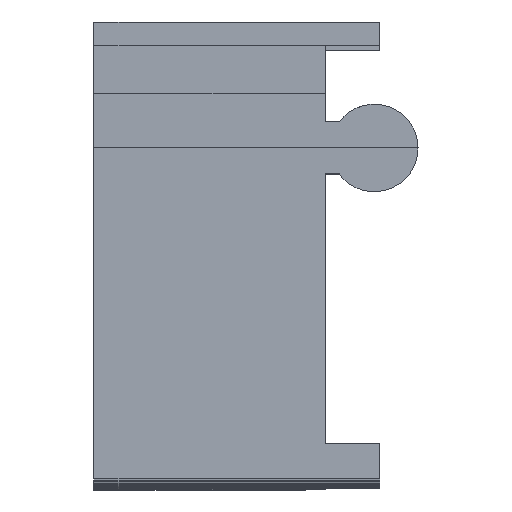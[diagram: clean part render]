
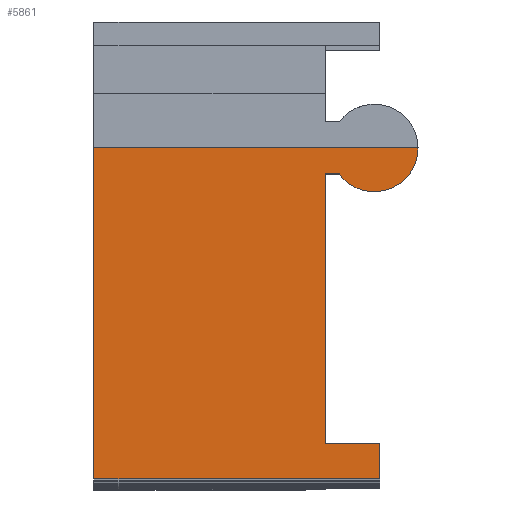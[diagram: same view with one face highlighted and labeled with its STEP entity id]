
A CAD part, top view. The second image highlights one B-rep face of the part: STEP entity #5861.
In plain terms, the highlighted planar face has unit normal (0, 0, 1).
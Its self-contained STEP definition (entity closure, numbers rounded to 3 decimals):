
#32 = PLANE('',#33);
#33 = AXIS2_PLACEMENT_3D('',#34,#35,#36);
#34 = CARTESIAN_POINT('',(-15.,135.,-0.1));
#35 = DIRECTION('',(1.,0.,-0.));
#36 = DIRECTION('',(0.,0.,1.));
#133 = VERTEX_POINT('',#134);
#134 = CARTESIAN_POINT('',(-15.,170.,23.5));
#147 = PLANE('',#148);
#148 = AXIS2_PLACEMENT_3D('',#149,#150,#151);
#149 = CARTESIAN_POINT('',(168.,170.,22.4));
#150 = DIRECTION('',(0.,-1.,0.));
#151 = DIRECTION('',(-1.,0.,0.));
#158 = EDGE_CURVE('',#133,#159,#161,.T.);
#159 = VERTEX_POINT('',#160);
#160 = CARTESIAN_POINT('',(-15.,145.8,23.5));
#161 = SURFACE_CURVE('',#162,(#166,#172),.PCURVE_S1.);
#162 = LINE('',#163,#164);
#163 = CARTESIAN_POINT('',(-15.,-5.4,23.5));
#164 = VECTOR('',#165,1.);
#165 = DIRECTION('',(0.,-1.,0.));
#166 = PCURVE('',#32,#167);
#167 = DEFINITIONAL_REPRESENTATION('',(#168),#171);
#168 = B_SPLINE_CURVE_WITH_KNOTS('',1,(#169,#170),.UNSPECIFIED.,.F.,.F.,
  (2,2),(-175.4,-140.4),.PIECEWISE_BEZIER_KNOTS.);
#169 = CARTESIAN_POINT('',(23.6,-35.));
#170 = CARTESIAN_POINT('',(23.6,0.));
#171 = ( GEOMETRIC_REPRESENTATION_CONTEXT(2) 
PARAMETRIC_REPRESENTATION_CONTEXT() REPRESENTATION_CONTEXT('2D SPACE',''
  ) );
#172 = PCURVE('',#173,#178);
#173 = PLANE('',#174);
#174 = AXIS2_PLACEMENT_3D('',#175,#176,#177);
#175 = CARTESIAN_POINT('',(126.7,-145.8,23.5));
#176 = DIRECTION('',(-0.,0.,1.));
#177 = DIRECTION('',(0.,-1.,0.));
#178 = DEFINITIONAL_REPRESENTATION('',(#179),#182);
#179 = B_SPLINE_CURVE_WITH_KNOTS('',1,(#180,#181),.UNSPECIFIED.,.F.,.F.,
  (2,2),(-175.4,-140.4),.PIECEWISE_BEZIER_KNOTS.);
#180 = CARTESIAN_POINT('',(-315.8,-141.7));
#181 = CARTESIAN_POINT('',(-280.8,-141.7));
#182 = ( GEOMETRIC_REPRESENTATION_CONTEXT(2) 
PARAMETRIC_REPRESENTATION_CONTEXT() REPRESENTATION_CONTEXT('2D SPACE',''
  ) );
#199 = PLANE('',#200);
#200 = AXIS2_PLACEMENT_3D('',#201,#202,#203);
#201 = CARTESIAN_POINT('',(-160.,145.696,23.493));
#202 = DIRECTION('',(0.,-0.065,0.998));
#203 = DIRECTION('',(0.,0.998,0.065));
#2628 = PLANE('',#2629);
#2629 = AXIS2_PLACEMENT_3D('',#2630,#2631,#2632);
#2630 = CARTESIAN_POINT('',(1.9,168.1,38.));
#2631 = DIRECTION('',(0.,-1.,0.));
#2632 = DIRECTION('',(1.,0.,0.));
#4489 = PLANE('',#4490);
#4490 = AXIS2_PLACEMENT_3D('',#4491,#4492,#4493);
#4491 = CARTESIAN_POINT('',(5.9,148.4,38.));
#4492 = DIRECTION('',(0.,1.,-0.));
#4493 = DIRECTION('',(-1.,0.,0.));
#5464 = PLANE('',#5465);
#5465 = AXIS2_PLACEMENT_3D('',#5466,#5467,#5468);
#5466 = CARTESIAN_POINT('',(5.9,145.1,38.));
#5467 = DIRECTION('',(1.,0.,0.));
#5468 = DIRECTION('',(-0.,1.,0.));
#5817 = EDGE_CURVE('',#159,#5818,#5820,.T.);
#5818 = VERTEX_POINT('',#5819);
#5819 = CARTESIAN_POINT('',(5.9,145.8,23.5));
#5820 = SURFACE_CURVE('',#5821,(#5825,#5832),.PCURVE_S1.);
#5821 = LINE('',#5822,#5823);
#5822 = CARTESIAN_POINT('',(-160.,145.8,23.5));
#5823 = VECTOR('',#5824,1.);
#5824 = DIRECTION('',(1.,0.,0.));
#5825 = PCURVE('',#199,#5826);
#5826 = DEFINITIONAL_REPRESENTATION('',(#5827),#5831);
#5827 = LINE('',#5828,#5829);
#5828 = CARTESIAN_POINT('',(0.105,0.));
#5829 = VECTOR('',#5830,1.);
#5830 = DIRECTION('',(0.,-1.));
#5831 = ( GEOMETRIC_REPRESENTATION_CONTEXT(2) 
PARAMETRIC_REPRESENTATION_CONTEXT() REPRESENTATION_CONTEXT('2D SPACE',''
  ) );
#5832 = PCURVE('',#173,#5833);
#5833 = DEFINITIONAL_REPRESENTATION('',(#5834),#5838);
#5834 = LINE('',#5835,#5836);
#5835 = CARTESIAN_POINT('',(-291.6,-286.7));
#5836 = VECTOR('',#5837,1.);
#5837 = DIRECTION('',(0.,1.));
#5838 = ( GEOMETRIC_REPRESENTATION_CONTEXT(2) 
PARAMETRIC_REPRESENTATION_CONTEXT() REPRESENTATION_CONTEXT('2D SPACE',''
  ) );
#5861 = ADVANCED_FACE('',(#5862),#173,.T.);
#5862 = FACE_BOUND('',#5863,.T.);
#5863 = EDGE_LOOP('',(#5864,#5885,#5886,#5887,#5909,#5931,#5958,#5980));
#5864 = ORIENTED_EDGE('',*,*,#5865,.F.);
#5865 = EDGE_CURVE('',#133,#5866,#5868,.T.);
#5866 = VERTEX_POINT('',#5867);
#5867 = CARTESIAN_POINT('',(8.7,170.,23.5));
#5868 = SURFACE_CURVE('',#5869,(#5873,#5879),.PCURVE_S1.);
#5869 = LINE('',#5870,#5871);
#5870 = CARTESIAN_POINT('',(147.35,170.,23.5));
#5871 = VECTOR('',#5872,1.);
#5872 = DIRECTION('',(1.,0.,0.));
#5873 = PCURVE('',#173,#5874);
#5874 = DEFINITIONAL_REPRESENTATION('',(#5875),#5878);
#5875 = B_SPLINE_CURVE_WITH_KNOTS('',1,(#5876,#5877),.UNSPECIFIED.,.F.,
  .F.,(2,2),(-315.35,20.65),.PIECEWISE_BEZIER_KNOTS.);
#5876 = CARTESIAN_POINT('',(-315.8,-294.7));
#5877 = CARTESIAN_POINT('',(-315.8,41.3));
#5878 = ( GEOMETRIC_REPRESENTATION_CONTEXT(2) 
PARAMETRIC_REPRESENTATION_CONTEXT() REPRESENTATION_CONTEXT('2D SPACE',''
  ) );
#5879 = PCURVE('',#147,#5880);
#5880 = DEFINITIONAL_REPRESENTATION('',(#5881),#5884);
#5881 = B_SPLINE_CURVE_WITH_KNOTS('',1,(#5882,#5883),.UNSPECIFIED.,.F.,
  .F.,(2,2),(-315.35,20.65),.PIECEWISE_BEZIER_KNOTS.);
#5882 = CARTESIAN_POINT('',(336.,-1.1));
#5883 = CARTESIAN_POINT('',(0.,-1.1));
#5884 = ( GEOMETRIC_REPRESENTATION_CONTEXT(2) 
PARAMETRIC_REPRESENTATION_CONTEXT() REPRESENTATION_CONTEXT('2D SPACE',''
  ) );
#5885 = ORIENTED_EDGE('',*,*,#158,.T.);
#5886 = ORIENTED_EDGE('',*,*,#5817,.T.);
#5887 = ORIENTED_EDGE('',*,*,#5888,.T.);
#5888 = EDGE_CURVE('',#5818,#5889,#5891,.T.);
#5889 = VERTEX_POINT('',#5890);
#5890 = CARTESIAN_POINT('',(5.9,148.4,23.5));
#5891 = SURFACE_CURVE('',#5892,(#5896,#5902),.PCURVE_S1.);
#5892 = LINE('',#5893,#5894);
#5893 = CARTESIAN_POINT('',(5.9,-0.35,23.5));
#5894 = VECTOR('',#5895,1.);
#5895 = DIRECTION('',(0.,1.,-0.));
#5896 = PCURVE('',#173,#5897);
#5897 = DEFINITIONAL_REPRESENTATION('',(#5898),#5901);
#5898 = B_SPLINE_CURVE_WITH_KNOTS('',1,(#5899,#5900),.UNSPECIFIED.,.F.,
  .F.,(2,2),(145.45,148.75),.PIECEWISE_BEZIER_KNOTS.);
#5899 = CARTESIAN_POINT('',(-290.9,-120.8));
#5900 = CARTESIAN_POINT('',(-294.2,-120.8));
#5901 = ( GEOMETRIC_REPRESENTATION_CONTEXT(2) 
PARAMETRIC_REPRESENTATION_CONTEXT() REPRESENTATION_CONTEXT('2D SPACE',''
  ) );
#5902 = PCURVE('',#5464,#5903);
#5903 = DEFINITIONAL_REPRESENTATION('',(#5904),#5908);
#5904 = LINE('',#5905,#5906);
#5905 = CARTESIAN_POINT('',(-145.45,-14.5));
#5906 = VECTOR('',#5907,1.);
#5907 = DIRECTION('',(1.,0.));
#5908 = ( GEOMETRIC_REPRESENTATION_CONTEXT(2) 
PARAMETRIC_REPRESENTATION_CONTEXT() REPRESENTATION_CONTEXT('2D SPACE',''
  ) );
#5909 = ORIENTED_EDGE('',*,*,#5910,.T.);
#5910 = EDGE_CURVE('',#5889,#5911,#5913,.T.);
#5911 = VERTEX_POINT('',#5912);
#5912 = CARTESIAN_POINT('',(1.9,148.4,23.5));
#5913 = SURFACE_CURVE('',#5914,(#5918,#5924),.PCURVE_S1.);
#5914 = LINE('',#5915,#5916);
#5915 = CARTESIAN_POINT('',(66.3,148.4,23.5));
#5916 = VECTOR('',#5917,1.);
#5917 = DIRECTION('',(-1.,0.,-0.));
#5918 = PCURVE('',#173,#5919);
#5919 = DEFINITIONAL_REPRESENTATION('',(#5920),#5923);
#5920 = B_SPLINE_CURVE_WITH_KNOTS('',1,(#5921,#5922),.UNSPECIFIED.,.F.,
  .F.,(2,2),(60.4,64.4),.PIECEWISE_BEZIER_KNOTS.);
#5921 = CARTESIAN_POINT('',(-294.2,-120.8));
#5922 = CARTESIAN_POINT('',(-294.2,-124.8));
#5923 = ( GEOMETRIC_REPRESENTATION_CONTEXT(2) 
PARAMETRIC_REPRESENTATION_CONTEXT() REPRESENTATION_CONTEXT('2D SPACE',''
  ) );
#5924 = PCURVE('',#4489,#5925);
#5925 = DEFINITIONAL_REPRESENTATION('',(#5926),#5930);
#5926 = LINE('',#5927,#5928);
#5927 = CARTESIAN_POINT('',(-60.4,-14.5));
#5928 = VECTOR('',#5929,1.);
#5929 = DIRECTION('',(1.,0.));
#5930 = ( GEOMETRIC_REPRESENTATION_CONTEXT(2) 
PARAMETRIC_REPRESENTATION_CONTEXT() REPRESENTATION_CONTEXT('2D SPACE',''
  ) );
#5931 = ORIENTED_EDGE('',*,*,#5932,.T.);
#5932 = EDGE_CURVE('',#5911,#5933,#5935,.T.);
#5933 = VERTEX_POINT('',#5934);
#5934 = CARTESIAN_POINT('',(1.9,168.1,23.5));
#5935 = SURFACE_CURVE('',#5936,(#5940,#5946),.PCURVE_S1.);
#5936 = LINE('',#5937,#5938);
#5937 = CARTESIAN_POINT('',(1.9,1.3,23.5));
#5938 = VECTOR('',#5939,1.);
#5939 = DIRECTION('',(0.,1.,-0.));
#5940 = PCURVE('',#173,#5941);
#5941 = DEFINITIONAL_REPRESENTATION('',(#5942),#5945);
#5942 = B_SPLINE_CURVE_WITH_KNOTS('',1,(#5943,#5944),.UNSPECIFIED.,.F.,
  .F.,(2,2),(147.1,166.8),.PIECEWISE_BEZIER_KNOTS.);
#5943 = CARTESIAN_POINT('',(-294.2,-124.8));
#5944 = CARTESIAN_POINT('',(-313.9,-124.8));
#5945 = ( GEOMETRIC_REPRESENTATION_CONTEXT(2) 
PARAMETRIC_REPRESENTATION_CONTEXT() REPRESENTATION_CONTEXT('2D SPACE',''
  ) );
#5946 = PCURVE('',#5947,#5952);
#5947 = PLANE('',#5948);
#5948 = AXIS2_PLACEMENT_3D('',#5949,#5950,#5951);
#5949 = CARTESIAN_POINT('',(1.9,148.4,38.));
#5950 = DIRECTION('',(1.,0.,0.));
#5951 = DIRECTION('',(-0.,1.,0.));
#5952 = DEFINITIONAL_REPRESENTATION('',(#5953),#5957);
#5953 = LINE('',#5954,#5955);
#5954 = CARTESIAN_POINT('',(-147.1,-14.5));
#5955 = VECTOR('',#5956,1.);
#5956 = DIRECTION('',(1.,0.));
#5957 = ( GEOMETRIC_REPRESENTATION_CONTEXT(2) 
PARAMETRIC_REPRESENTATION_CONTEXT() REPRESENTATION_CONTEXT('2D SPACE',''
  ) );
#5958 = ORIENTED_EDGE('',*,*,#5959,.T.);
#5959 = EDGE_CURVE('',#5933,#5960,#5962,.T.);
#5960 = VERTEX_POINT('',#5961);
#5961 = CARTESIAN_POINT('',(2.925,168.1,23.5));
#5962 = SURFACE_CURVE('',#5963,(#5967,#5973),.PCURVE_S1.);
#5963 = LINE('',#5964,#5965);
#5964 = CARTESIAN_POINT('',(64.3,168.1,23.5));
#5965 = VECTOR('',#5966,1.);
#5966 = DIRECTION('',(1.,0.,0.));
#5967 = PCURVE('',#173,#5968);
#5968 = DEFINITIONAL_REPRESENTATION('',(#5969),#5972);
#5969 = B_SPLINE_CURVE_WITH_KNOTS('',1,(#5970,#5971),.UNSPECIFIED.,.F.,
  .F.,(2,2),(-62.4,-61.375),.PIECEWISE_BEZIER_KNOTS.);
#5970 = CARTESIAN_POINT('',(-313.9,-124.8));
#5971 = CARTESIAN_POINT('',(-313.9,-123.775));
#5972 = ( GEOMETRIC_REPRESENTATION_CONTEXT(2) 
PARAMETRIC_REPRESENTATION_CONTEXT() REPRESENTATION_CONTEXT('2D SPACE',''
  ) );
#5973 = PCURVE('',#2628,#5974);
#5974 = DEFINITIONAL_REPRESENTATION('',(#5975),#5979);
#5975 = LINE('',#5976,#5977);
#5976 = CARTESIAN_POINT('',(62.4,-14.5));
#5977 = VECTOR('',#5978,1.);
#5978 = DIRECTION('',(1.,0.));
#5979 = ( GEOMETRIC_REPRESENTATION_CONTEXT(2) 
PARAMETRIC_REPRESENTATION_CONTEXT() REPRESENTATION_CONTEXT('2D SPACE',''
  ) );
#5980 = ORIENTED_EDGE('',*,*,#5981,.T.);
#5981 = EDGE_CURVE('',#5960,#5866,#5982,.T.);
#5982 = SURFACE_CURVE('',#5983,(#5988,#5995),.PCURVE_S1.);
#5983 = CIRCLE('',#5984,3.2);
#5984 = AXIS2_PLACEMENT_3D('',#5985,#5986,#5987);
#5985 = CARTESIAN_POINT('',(5.5,170.,23.5));
#5986 = DIRECTION('',(0.,0.,1.));
#5987 = DIRECTION('',(1.,0.,-0.));
#5988 = PCURVE('',#173,#5989);
#5989 = DEFINITIONAL_REPRESENTATION('',(#5990),#5994);
#5990 = CIRCLE('',#5991,3.2);
#5991 = AXIS2_PLACEMENT_2D('',#5992,#5993);
#5992 = CARTESIAN_POINT('',(-315.8,-121.2));
#5993 = DIRECTION('',(0.,1.));
#5994 = ( GEOMETRIC_REPRESENTATION_CONTEXT(2) 
PARAMETRIC_REPRESENTATION_CONTEXT() REPRESENTATION_CONTEXT('2D SPACE',''
  ) );
#5995 = PCURVE('',#5996,#6001);
#5996 = CYLINDRICAL_SURFACE('',#5997,3.2);
#5997 = AXIS2_PLACEMENT_3D('',#5998,#5999,#6000);
#5998 = CARTESIAN_POINT('',(5.5,170.,23.45));
#5999 = DIRECTION('',(0.,0.,1.));
#6000 = DIRECTION('',(1.,0.,-0.));
#6001 = DEFINITIONAL_REPRESENTATION('',(#6002),#6006);
#6002 = LINE('',#6003,#6004);
#6003 = CARTESIAN_POINT('',(0.,0.05));
#6004 = VECTOR('',#6005,1.);
#6005 = DIRECTION('',(1.,0.));
#6006 = ( GEOMETRIC_REPRESENTATION_CONTEXT(2) 
PARAMETRIC_REPRESENTATION_CONTEXT() REPRESENTATION_CONTEXT('2D SPACE',''
  ) );
